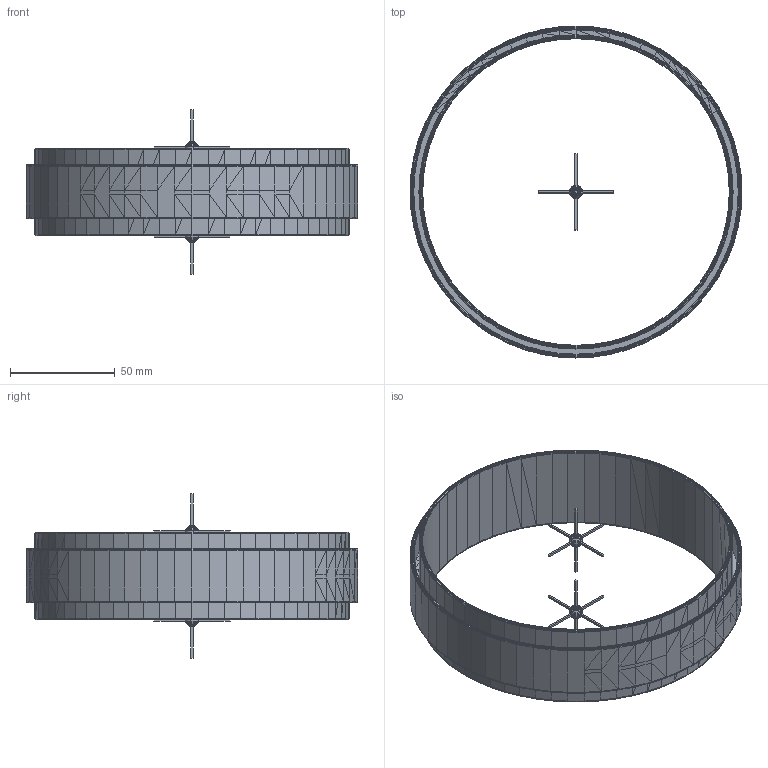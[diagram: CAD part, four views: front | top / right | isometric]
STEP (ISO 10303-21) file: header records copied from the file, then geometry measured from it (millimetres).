
FILE_DESCRIPTION(('FreeCAD Model'),'2;1');
FILE_NAME('Open CASCADE Shape Model','2024-04-12T13:54:34',('Author'),( ''),'Open CASCADE STEP processor 7.6','FreeCAD','Unknown');
FILE_SCHEMA(('AUTOMOTIVE_DESIGN { 1 0 10303 214 1 1 1 1 }'));
Length unit declared in the file: millimetre
Products named in the file (4): Unnamed; Tube_002 (Solid); _Cross_b_002 (Solid); _Cross_f_002 (Solid)
Assembly tree (3 placements, depth 2):
  Unnamed
    Tube_002 (Solid)
    _Cross_b_002 (Solid)
    _Cross_f_002 (Solid)
Bounding box: 158.5 x 158.5 x 78.42 mm (x, y, z)
Volume: 60267.3 mm3; surface area: 68437.9 mm2
Topology: 3 solids, 3 shells, 6629 faces, 10632 edges, 4011 vertices
Faces by surface type: plane 6629
Entity records: 135594 total; most frequent: DIRECTION 23898, CARTESIAN_POINT 21276, ORIENTED_EDGE 21264, EDGE_CURVE 10632, LINE 10632, VECTOR 10632, AXIS2_PLACEMENT_3D 6633, FACE_BOUND 6633
